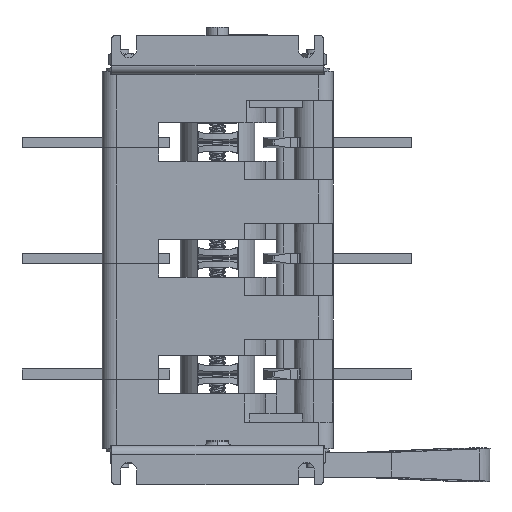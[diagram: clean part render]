
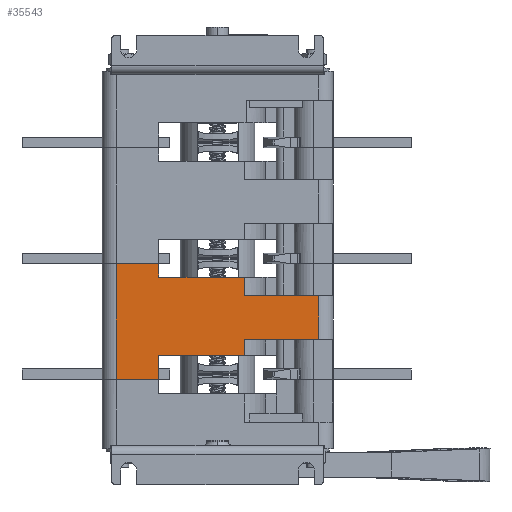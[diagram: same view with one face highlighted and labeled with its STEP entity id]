
A CAD part, front view. The second image highlights one B-rep face of the part: STEP entity #35543.
In plain terms, the highlighted planar face has unit normal (0, -1, 0).
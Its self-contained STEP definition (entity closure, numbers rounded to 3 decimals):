
#428 = DIRECTION ( 'NONE',  ( 1., 0., 0. ) ) ;
#946 = VERTEX_POINT ( 'NONE', #15248 ) ;
#1081 = VECTOR ( 'NONE', #14907, 1000. ) ;
#2092 = EDGE_CURVE ( 'NONE', #51993, #11184, #2658, .T. ) ;
#2169 = LINE ( 'NONE', #49844, #27993 ) ;
#2589 = CARTESIAN_POINT ( 'NONE',  ( 15., -27., 25. ) ) ;
#2658 = LINE ( 'NONE', #20044, #28453 ) ;
#3485 = ORIENTED_EDGE ( 'NONE', *, *, #51362, .F. ) ;
#3962 = EDGE_CURVE ( 'NONE', #52556, #30821, #24285, .T. ) ;
#4035 = ORIENTED_EDGE ( 'NONE', *, *, #6398, .F. ) ;
#4767 = VERTEX_POINT ( 'NONE', #18488 ) ;
#4954 = DIRECTION ( 'NONE',  ( 0., 0., 1. ) ) ;
#6119 = CARTESIAN_POINT ( 'NONE',  ( -57., -27., -32.5 ) ) ;
#6398 = EDGE_CURVE ( 'NONE', #49560, #946, #39939, .T. ) ;
#9948 = LINE ( 'NONE', #38229, #18990 ) ;
#10236 = CARTESIAN_POINT ( 'NONE',  ( 15., -27., -10. ) ) ;
#10931 = CARTESIAN_POINT ( 'NONE',  ( 15., -27., 14.5 ) ) ;
#10964 = PLANE ( 'NONE',  #54240 ) ;
#11115 = CARTESIAN_POINT ( 'NONE',  ( -33., -27., -19. ) ) ;
#11184 = VERTEX_POINT ( 'NONE', #11115 ) ;
#11338 = EDGE_CURVE ( 'NONE', #48339, #18885, #54455, .T. ) ;
#11844 = VERTEX_POINT ( 'NONE', #24191 ) ;
#11993 = LINE ( 'NONE', #25398, #34226 ) ;
#13135 = EDGE_CURVE ( 'NONE', #51993, #40711, #30206, .T. ) ;
#14233 = CARTESIAN_POINT ( 'NONE',  ( -57., -27., 25. ) ) ;
#14907 = DIRECTION ( 'NONE',  ( 0., 0., -1. ) ) ;
#15248 = CARTESIAN_POINT ( 'NONE',  ( 15., -27., -10. ) ) ;
#18488 = CARTESIAN_POINT ( 'NONE',  ( -33., -27., 25. ) ) ;
#18885 = VERTEX_POINT ( 'NONE', #45462 ) ;
#18990 = VECTOR ( 'NONE', #56531, 1000. ) ;
#19278 = CARTESIAN_POINT ( 'NONE',  ( -33., -27., 32.5 ) ) ;
#20044 = CARTESIAN_POINT ( 'NONE',  ( -33., -27., -32.5 ) ) ;
#20070 = ORIENTED_EDGE ( 'NONE', *, *, #11338, .F. ) ;
#20108 = DIRECTION ( 'NONE',  ( 1., 0., 0. ) ) ;
#20740 = EDGE_LOOP ( 'NONE', ( #50303, #41955, #46411, #38624, #20070, #49123, #23841, #44932, #30361, #43595, #4035, #3485 ) ) ;
#20855 = CARTESIAN_POINT ( 'NONE',  ( -57., -27., 32.5 ) ) ;
#23841 = ORIENTED_EDGE ( 'NONE', *, *, #13135, .F. ) ;
#23957 = DIRECTION ( 'NONE',  ( 0., 0., -1. ) ) ;
#23961 = LINE ( 'NONE', #19278, #57121 ) ;
#24191 = CARTESIAN_POINT ( 'NONE',  ( 15., -27., -19. ) ) ;
#24285 = LINE ( 'NONE', #10931, #54652 ) ;
#24332 = CARTESIAN_POINT ( 'NONE',  ( -57., -27., -32.5 ) ) ;
#25398 = CARTESIAN_POINT ( 'NONE',  ( -57., -27., 25. ) ) ;
#26142 = VECTOR ( 'NONE', #53347, 1000. ) ;
#26847 = EDGE_CURVE ( 'NONE', #18885, #4767, #23961, .T. ) ;
#27993 = VECTOR ( 'NONE', #428, 1000. ) ;
#28386 = CARTESIAN_POINT ( 'NONE',  ( 57., -27., 25. ) ) ;
#28453 = VECTOR ( 'NONE', #50985, 1000. ) ;
#30206 = LINE ( 'NONE', #24332, #33004 ) ;
#30221 = CARTESIAN_POINT ( 'NONE',  ( -57., -27., 32.5 ) ) ;
#30294 = DIRECTION ( 'NONE',  ( -1., 0., 0. ) ) ;
#30361 = ORIENTED_EDGE ( 'NONE', *, *, #47301, .F. ) ;
#30821 = VERTEX_POINT ( 'NONE', #48114 ) ;
#30907 = VECTOR ( 'NONE', #37392, 1000. ) ;
#31678 = DIRECTION ( 'NONE',  ( -1., 0., 0. ) ) ;
#32660 = DIRECTION ( 'NONE',  ( 0., 0., 1. ) ) ;
#33004 = VECTOR ( 'NONE', #31678, 1000. ) ;
#34226 = VECTOR ( 'NONE', #40817, 1000. ) ;
#34294 = VERTEX_POINT ( 'NONE', #2589 ) ;
#34430 = LINE ( 'NONE', #28386, #1081 ) ;
#34704 = EDGE_CURVE ( 'NONE', #4767, #34294, #2169, .T. ) ;
#35543 = ADVANCED_FACE ( 'NONE', ( #41280 ), #10964, .F. ) ;
#36751 = CARTESIAN_POINT ( 'NONE',  ( 15., -27., 14.5 ) ) ;
#37392 = DIRECTION ( 'NONE',  ( -1., 0., 0. ) ) ;
#38229 = CARTESIAN_POINT ( 'NONE',  ( 15., -27., 14.5 ) ) ;
#38624 = ORIENTED_EDGE ( 'NONE', *, *, #26847, .F. ) ;
#39939 = LINE ( 'NONE', #10236, #30907 ) ;
#40228 = LINE ( 'NONE', #52156, #54007 ) ;
#40711 = VERTEX_POINT ( 'NONE', #6119 ) ;
#40817 = DIRECTION ( 'NONE',  ( 0., 0., -1. ) ) ;
#40968 = EDGE_CURVE ( 'NONE', #48339, #40711, #11993, .T. ) ;
#41143 = EDGE_CURVE ( 'NONE', #52556, #34294, #9948, .T. ) ;
#41152 = VECTOR ( 'NONE', #32660, 1000. ) ;
#41280 = FACE_OUTER_BOUND ( 'NONE', #20740, .T. ) ;
#41955 = ORIENTED_EDGE ( 'NONE', *, *, #41143, .T. ) ;
#42481 = EDGE_CURVE ( 'NONE', #11844, #946, #46671, .T. ) ;
#43595 = ORIENTED_EDGE ( 'NONE', *, *, #42481, .T. ) ;
#44932 = ORIENTED_EDGE ( 'NONE', *, *, #2092, .T. ) ;
#45462 = CARTESIAN_POINT ( 'NONE',  ( -33., -27., 32.5 ) ) ;
#45664 = CARTESIAN_POINT ( 'NONE',  ( 57., -27., -10. ) ) ;
#46411 = ORIENTED_EDGE ( 'NONE', *, *, #34704, .F. ) ;
#46671 = LINE ( 'NONE', #50215, #41152 ) ;
#47301 = EDGE_CURVE ( 'NONE', #11844, #11184, #40228, .T. ) ;
#47481 = CARTESIAN_POINT ( 'NONE',  ( -33., -27., -32.5 ) ) ;
#48114 = CARTESIAN_POINT ( 'NONE',  ( 57., -27., 14.5 ) ) ;
#48339 = VERTEX_POINT ( 'NONE', #30221 ) ;
#49123 = ORIENTED_EDGE ( 'NONE', *, *, #40968, .T. ) ;
#49560 = VERTEX_POINT ( 'NONE', #45664 ) ;
#49844 = CARTESIAN_POINT ( 'NONE',  ( -57., -27., 25. ) ) ;
#50215 = CARTESIAN_POINT ( 'NONE',  ( 15., -27., -19. ) ) ;
#50303 = ORIENTED_EDGE ( 'NONE', *, *, #3962, .F. ) ;
#50985 = DIRECTION ( 'NONE',  ( 0., 0., 1. ) ) ;
#51362 = EDGE_CURVE ( 'NONE', #30821, #49560, #34430, .T. ) ;
#51993 = VERTEX_POINT ( 'NONE', #47481 ) ;
#52156 = CARTESIAN_POINT ( 'NONE',  ( -33., -27., -19. ) ) ;
#52556 = VERTEX_POINT ( 'NONE', #36751 ) ;
#53347 = DIRECTION ( 'NONE',  ( 1., 0., 0. ) ) ;
#54007 = VECTOR ( 'NONE', #30294, 1000. ) ;
#54240 = AXIS2_PLACEMENT_3D ( 'NONE', #14233, #55322, #4954 ) ;
#54455 = LINE ( 'NONE', #20855, #26142 ) ;
#54652 = VECTOR ( 'NONE', #20108, 1000. ) ;
#55322 = DIRECTION ( 'NONE',  ( 0., 1., 0. ) ) ;
#56531 = DIRECTION ( 'NONE',  ( 0., 0., 1. ) ) ;
#57121 = VECTOR ( 'NONE', #23957, 1000. ) ;
